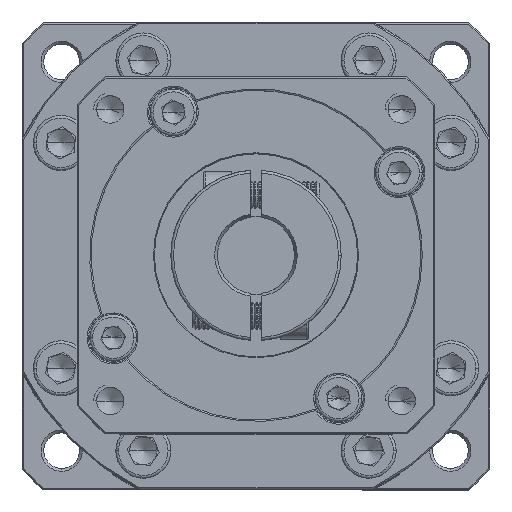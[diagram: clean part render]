
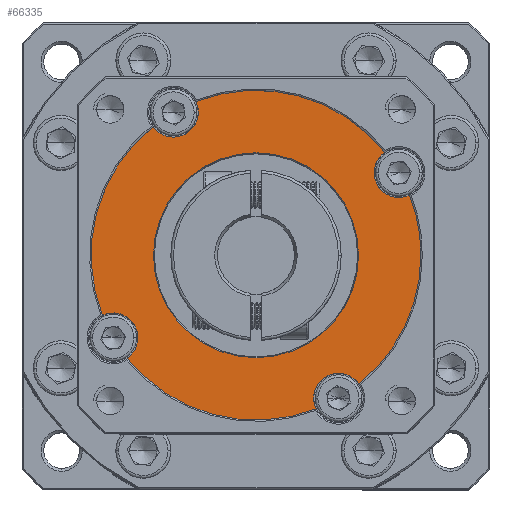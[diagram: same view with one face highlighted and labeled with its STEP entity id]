
A CAD part, top view. The second image highlights one B-rep face of the part: STEP entity #66335.
In plain terms, the highlighted planar face has unit normal (0, 0, 1).
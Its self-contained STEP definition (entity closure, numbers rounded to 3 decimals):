
#783 = DIRECTION ( 'NONE',  ( 0., 0., 1. ) ) ;
#790 = CARTESIAN_POINT ( 'NONE',  ( -65.839, 19.997, 4.648 ) ) ;
#1471 = AXIS2_PLACEMENT_3D ( 'NONE', #59667, #7910, #68420 ) ;
#1933 = VERTEX_POINT ( 'NONE', #50118 ) ;
#3026 = EDGE_CURVE ( 'NONE', #90960, #96510, #44213, .T. ) ;
#3661 = VERTEX_POINT ( 'NONE', #50123 ) ;
#3691 = DIRECTION ( 'NONE',  ( 0., 0., 1. ) ) ;
#3928 = EDGE_CURVE ( 'NONE', #55452, #43770, #101256, .T. ) ;
#7910 = DIRECTION ( 'NONE',  ( 0., 0., 1. ) ) ;
#8425 = FACE_OUTER_BOUND ( 'NONE', #20769, .T. ) ;
#9398 = DIRECTION ( 'NONE',  ( 1., 0., 0. ) ) ;
#9834 = ORIENTED_EDGE ( 'NONE', *, *, #28384, .T. ) ;
#11161 = DIRECTION ( 'NONE',  ( 0., 0., 1. ) ) ;
#11304 = CARTESIAN_POINT ( 'NONE',  ( -65.839, 19.997, 4.648 ) ) ;
#11315 = EDGE_LOOP ( 'NONE', ( #18296, #105102 ) ) ;
#14207 = CARTESIAN_POINT ( 'NONE',  ( -44.359, 34.997, 4.648 ) ) ;
#14540 = CARTESIAN_POINT ( 'NONE',  ( -80.839, 45.978, 4.648 ) ) ;
#14784 = VERTEX_POINT ( 'NONE', #101146 ) ;
#14952 = CARTESIAN_POINT ( 'NONE',  ( -65.839, 19.997, 4.648 ) ) ;
#15068 = CIRCLE ( 'NONE', #99028, 4.5 ) ;
#15339 = ORIENTED_EDGE ( 'NONE', *, *, #53308, .T. ) ;
#15481 = ORIENTED_EDGE ( 'NONE', *, *, #48766, .F. ) ;
#15850 = EDGE_CURVE ( 'NONE', #3661, #14784, #75896, .T. ) ;
#18296 = ORIENTED_EDGE ( 'NONE', *, *, #39641, .T. ) ;
#20024 = DIRECTION ( 'NONE',  ( 1., 0., 0. ) ) ;
#20705 = VERTEX_POINT ( 'NONE', #80869 ) ;
#20769 = EDGE_LOOP ( 'NONE', ( #24311, #47348, #68584, #67622, #41005, #15339, #40505, #110449, #81771, #34248, #15481, #9834, #96733 ) ) ;
#23261 = DIRECTION ( 'NONE',  ( 1., 0., 0. ) ) ;
#23360 = AXIS2_PLACEMENT_3D ( 'NONE', #62958, #11161, #71679 ) ;
#23672 = DIRECTION ( 'NONE',  ( 1., 0., 0. ) ) ;
#24264 = CARTESIAN_POINT ( 'NONE',  ( -39.859, 34.997, 4.648 ) ) ;
#24311 = ORIENTED_EDGE ( 'NONE', *, *, #100219, .F. ) ;
#24367 = AXIS2_PLACEMENT_3D ( 'NONE', #27133, #87773, #35852 ) ;
#24462 = AXIS2_PLACEMENT_3D ( 'NONE', #28347, #88974, #37040 ) ;
#25804 = CARTESIAN_POINT ( 'NONE',  ( -39.859, 34.997, 4.648 ) ) ;
#27133 = CARTESIAN_POINT ( 'NONE',  ( -91.82, 4.997, 4.648 ) ) ;
#28347 = CARTESIAN_POINT ( 'NONE',  ( -80.839, 45.978, 4.648 ) ) ;
#28384 = EDGE_CURVE ( 'NONE', #39598, #47583, #107960, .T. ) ;
#29399 = VERTEX_POINT ( 'NONE', #60128 ) ;
#30597 = CIRCLE ( 'NONE', #62972, 4.5 ) ;
#31399 = CARTESIAN_POINT ( 'NONE',  ( -54.894, -7.935, 4.648 ) ) ;
#32061 = EDGE_CURVE ( 'NONE', #29399, #74414, #15068, .T. ) ;
#32999 = DIRECTION ( 'NONE',  ( 1., 0., 0. ) ) ;
#34248 = ORIENTED_EDGE ( 'NONE', *, *, #60676, .F. ) ;
#34553 = DIRECTION ( 'NONE',  ( 1., 0., 0. ) ) ;
#35656 = CARTESIAN_POINT ( 'NONE',  ( -50.839, -5.983, 4.648 ) ) ;
#35672 = CARTESIAN_POINT ( 'NONE',  ( -76.784, 47.929, 4.648 ) ) ;
#35852 = DIRECTION ( 'NONE',  ( 1., 0., 0. ) ) ;
#37040 = DIRECTION ( 'NONE',  ( 1., 0., 0. ) ) ;
#39598 = VERTEX_POINT ( 'NONE', #56578 ) ;
#39641 = EDGE_CURVE ( 'NONE', #14784, #3661, #52380, .T. ) ;
#40466 = CARTESIAN_POINT ( 'NONE',  ( -93.771, 9.052, 4.648 ) ) ;
#40505 = ORIENTED_EDGE ( 'NONE', *, *, #3026, .F. ) ;
#41005 = ORIENTED_EDGE ( 'NONE', *, *, #44602, .T. ) ;
#42786 = CARTESIAN_POINT ( 'NONE',  ( -65.839, 19.997, 4.648 ) ) ;
#43138 = DIRECTION ( 'NONE',  ( 0., 0., 1. ) ) ;
#43770 = VERTEX_POINT ( 'NONE', #35672 ) ;
#44213 = CIRCLE ( 'NONE', #76899, 4.5 ) ;
#44326 = DIRECTION ( 'NONE',  ( 1., 0., 0. ) ) ;
#44408 = AXIS2_PLACEMENT_3D ( 'NONE', #14540, #75105, #23261 ) ;
#44602 = EDGE_CURVE ( 'NONE', #29399, #20705, #68344, .T. ) ;
#47348 = ORIENTED_EDGE ( 'NONE', *, *, #51859, .T. ) ;
#47583 = VERTEX_POINT ( 'NONE', #40466 ) ;
#48671 = CARTESIAN_POINT ( 'NONE',  ( -50.839, -5.983, 4.648 ) ) ;
#48766 = EDGE_CURVE ( 'NONE', #39598, #1933, #88412, .T. ) ;
#50118 = CARTESIAN_POINT ( 'NONE',  ( -76.339, 45.978, 4.648 ) ) ;
#50123 = CARTESIAN_POINT ( 'NONE',  ( -84.484, 19.997, 4.648 ) ) ;
#51437 = DIRECTION ( 'NONE',  ( 1., 0., 0. ) ) ;
#51859 = EDGE_CURVE ( 'NONE', #83950, #99845, #110396, .T. ) ;
#52380 = CIRCLE ( 'NONE', #72864, 18.644 ) ;
#52441 = CIRCLE ( 'NONE', #24367, 4.5 ) ;
#52482 = CARTESIAN_POINT ( 'NONE',  ( -91.82, 4.997, 4.648 ) ) ;
#53308 = EDGE_CURVE ( 'NONE', #20705, #96510, #86729, .T. ) ;
#54070 = EDGE_CURVE ( 'NONE', #55452, #90960, #104298, .T. ) ;
#55452 = VERTEX_POINT ( 'NONE', #98429 ) ;
#55461 = CARTESIAN_POINT ( 'NONE',  ( -65.839, 19.997, 4.648 ) ) ;
#56578 = CARTESIAN_POINT ( 'NONE',  ( -84.557, 43.442, 4.648 ) ) ;
#57397 = DIRECTION ( 'NONE',  ( 1., 0., 0. ) ) ;
#58380 = EDGE_CURVE ( 'NONE', #74414, #99845, #30597, .T. ) ;
#58524 = VERTEX_POINT ( 'NONE', #88690 ) ;
#59308 = AXIS2_PLACEMENT_3D ( 'NONE', #42786, #103409, #51437 ) ;
#59667 = CARTESIAN_POINT ( 'NONE',  ( -65.839, 19.997, 4.648 ) ) ;
#59985 = AXIS2_PLACEMENT_3D ( 'NONE', #55461, #3691, #64199 ) ;
#60128 = CARTESIAN_POINT ( 'NONE',  ( -47.122, -3.447, 4.648 ) ) ;
#60676 = EDGE_CURVE ( 'NONE', #1933, #43770, #63256, .T. ) ;
#61183 = DIRECTION ( 'NONE',  ( 1., 0., 0. ) ) ;
#61191 = DIRECTION ( 'NONE',  ( 0., 0., 1. ) ) ;
#62958 = CARTESIAN_POINT ( 'NONE',  ( -65.839, 19.997, 4.648 ) ) ;
#62972 = AXIS2_PLACEMENT_3D ( 'NONE', #35656, #96257, #44326 ) ;
#63256 = CIRCLE ( 'NONE', #44408, 4.5 ) ;
#64199 = DIRECTION ( 'NONE',  ( 1., 0., 0. ) ) ;
#66335 = ADVANCED_FACE ( 'NONE', ( #100567, #8425 ), #78293, .T. ) ;
#67622 = ORIENTED_EDGE ( 'NONE', *, *, #32061, .F. ) ;
#68344 = CIRCLE ( 'NONE', #1471, 30. ) ;
#68420 = DIRECTION ( 'NONE',  ( 1., 0., 0. ) ) ;
#68584 = ORIENTED_EDGE ( 'NONE', *, *, #58380, .F. ) ;
#71679 = DIRECTION ( 'NONE',  ( 1., 0., 0. ) ) ;
#71820 = DIRECTION ( 'NONE',  ( 0., 0., -1. ) ) ;
#72864 = AXIS2_PLACEMENT_3D ( 'NONE', #14952, #75495, #23672 ) ;
#73427 = AXIS2_PLACEMENT_3D ( 'NONE', #790, #61191, #9398 ) ;
#73555 = AXIS2_PLACEMENT_3D ( 'NONE', #11304, #71820, #20024 ) ;
#74414 = VERTEX_POINT ( 'NONE', #97947 ) ;
#75105 = DIRECTION ( 'NONE',  ( 0., 0., 1. ) ) ;
#75495 = DIRECTION ( 'NONE',  ( 0., 0., -1. ) ) ;
#75896 = CIRCLE ( 'NONE', #73555, 18.644 ) ;
#76899 = AXIS2_PLACEMENT_3D ( 'NONE', #24264, #84865, #32999 ) ;
#78293 = PLANE ( 'NONE',  #73427 ) ;
#78418 = AXIS2_PLACEMENT_3D ( 'NONE', #25804, #86411, #34553 ) ;
#80869 = CARTESIAN_POINT ( 'NONE',  ( -35.839, 19.997, 4.648 ) ) ;
#81302 = CARTESIAN_POINT ( 'NONE',  ( -89.284, 1.28, 4.648 ) ) ;
#81771 = ORIENTED_EDGE ( 'NONE', *, *, #3928, .T. ) ;
#83393 = AXIS2_PLACEMENT_3D ( 'NONE', #95058, #43138, #103761 ) ;
#83950 = VERTEX_POINT ( 'NONE', #81302 ) ;
#84865 = DIRECTION ( 'NONE',  ( 0., 0., 1. ) ) ;
#86411 = DIRECTION ( 'NONE',  ( 0., 0., 1. ) ) ;
#86729 = CIRCLE ( 'NONE', #83393, 30. ) ;
#87773 = DIRECTION ( 'NONE',  ( 0., 0., 1. ) ) ;
#88412 = CIRCLE ( 'NONE', #24462, 4.5 ) ;
#88690 = CARTESIAN_POINT ( 'NONE',  ( -87.32, 4.997, 4.648 ) ) ;
#88974 = DIRECTION ( 'NONE',  ( 0., 0., 1. ) ) ;
#90405 = AXIS2_PLACEMENT_3D ( 'NONE', #52482, #783, #61183 ) ;
#90960 = VERTEX_POINT ( 'NONE', #14207 ) ;
#95058 = CARTESIAN_POINT ( 'NONE',  ( -65.839, 19.997, 4.648 ) ) ;
#96257 = DIRECTION ( 'NONE',  ( 0., 0., 1. ) ) ;
#96510 = VERTEX_POINT ( 'NONE', #105371 ) ;
#96733 = ORIENTED_EDGE ( 'NONE', *, *, #100209, .F. ) ;
#97947 = CARTESIAN_POINT ( 'NONE',  ( -55.339, -5.983, 4.648 ) ) ;
#98429 = CARTESIAN_POINT ( 'NONE',  ( -42.395, 38.715, 4.648 ) ) ;
#99028 = AXIS2_PLACEMENT_3D ( 'NONE', #48671, #109291, #57397 ) ;
#99845 = VERTEX_POINT ( 'NONE', #31399 ) ;
#100209 = EDGE_CURVE ( 'NONE', #58524, #47583, #109415, .T. ) ;
#100219 = EDGE_CURVE ( 'NONE', #83950, #58524, #52441, .T. ) ;
#100567 = FACE_BOUND ( 'NONE', #11315, .T. ) ;
#101146 = CARTESIAN_POINT ( 'NONE',  ( -47.195, 19.997, 4.648 ) ) ;
#101256 = CIRCLE ( 'NONE', #23360, 30. ) ;
#103409 = DIRECTION ( 'NONE',  ( 0., 0., 1. ) ) ;
#103761 = DIRECTION ( 'NONE',  ( 1., 0., 0. ) ) ;
#104298 = CIRCLE ( 'NONE', #78418, 4.5 ) ;
#105102 = ORIENTED_EDGE ( 'NONE', *, *, #15850, .T. ) ;
#105371 = CARTESIAN_POINT ( 'NONE',  ( -37.907, 30.942, 4.648 ) ) ;
#107960 = CIRCLE ( 'NONE', #59308, 30. ) ;
#109291 = DIRECTION ( 'NONE',  ( 0., 0., 1. ) ) ;
#109415 = CIRCLE ( 'NONE', #90405, 4.5 ) ;
#110396 = CIRCLE ( 'NONE', #59985, 30. ) ;
#110449 = ORIENTED_EDGE ( 'NONE', *, *, #54070, .F. ) ;
